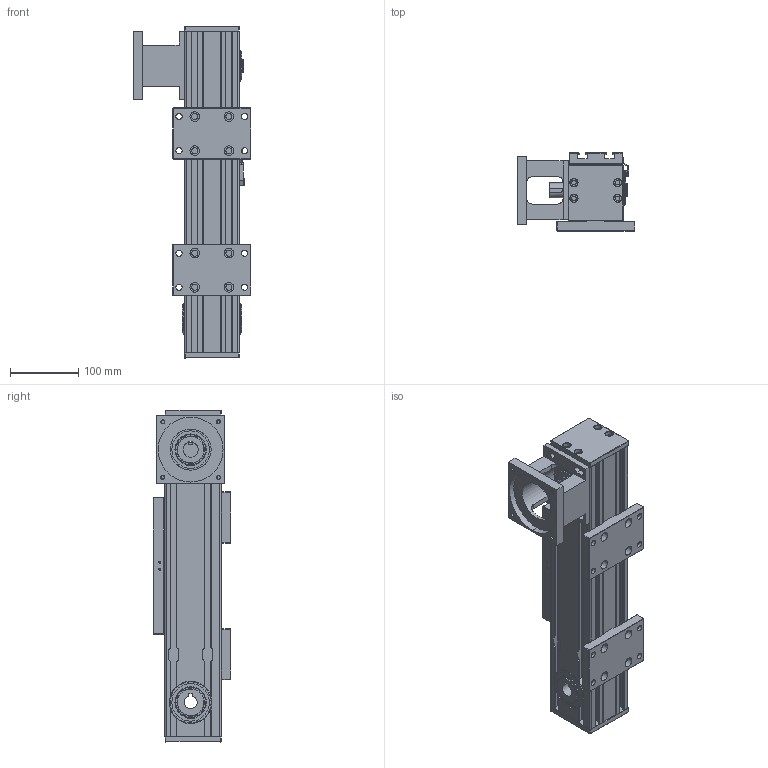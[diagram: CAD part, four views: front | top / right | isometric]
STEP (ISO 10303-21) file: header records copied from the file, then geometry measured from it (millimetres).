
FILE_DESCRIPTION((''),'2;1');
FILE_NAME('TKR80-100A1F0-R3_ASM_21_ASM','2021-12-27T',('Administrator'),(''),'PRO/ENGINEER BY PARAMETRIC TECHNOLOGY CORPORATION, 2010280','PRO/ENGINEER BY PARAMETRIC TECHNOLOGY CORPORATION, 2010280','');
FILE_SCHEMA(('CONFIG_CONTROL_DESIGN'));
Length unit declared in the file: millimetre
Products named in the file (15): TKR80-100-R3_26; TKR80-HTD5M30C_7; TKR80-KA40_3; TKR80-08_ASM_7_ASM; TKR80-100-HTD5_6; TKR80-02-R3_10; TKR80-09_4; TKR80-03_4; TKR80-SP08ZUO_3; TKR80-SP08_1; TKR80-SP08-PIAN_2; TKR80-11_5; TKR80-10_4; TKR80-07_4; TKR80-100A1F0-R3_ASM_21_ASM
Assembly tree (19 placements, depth 3):
  TKR80-100A1F0-R3_ASM_21_ASM
    TKR80-100-R3_26
    TKR80-08_ASM_7_ASM  x2
      TKR80-HTD5M30C_7
      TKR80-KA40_3
    TKR80-100-HTD5_6
    TKR80-02-R3_10
    TKR80-09_4  x2
    TKR80-03_4  x2
    TKR80-SP08ZUO_3
    TKR80-SP08_1
    TKR80-SP08-PIAN_2
    TKR80-11_5
    TKR80-10_4
    TKR80-07_4  x2
Bounding box: 172 x 114 x 486 mm (x, y, z)
Volume: 3380268.1 mm3; surface area: 665847.4 mm2
Topology: 20 solids, 42 shells, 1856 faces, 5097 edges, 3359 vertices
Faces by surface type: cylinder 956, plane 634, torus 144, cone 122
Entity records: 45195 total; most frequent: CARTESIAN_POINT 9370, DIRECTION 7723, ORIENTED_EDGE 7334, EDGE_CURVE 3707, AXIS2_PLACEMENT_3D 2873, VERTEX_POINT 2473, VECTOR 1977, LINE 1977
